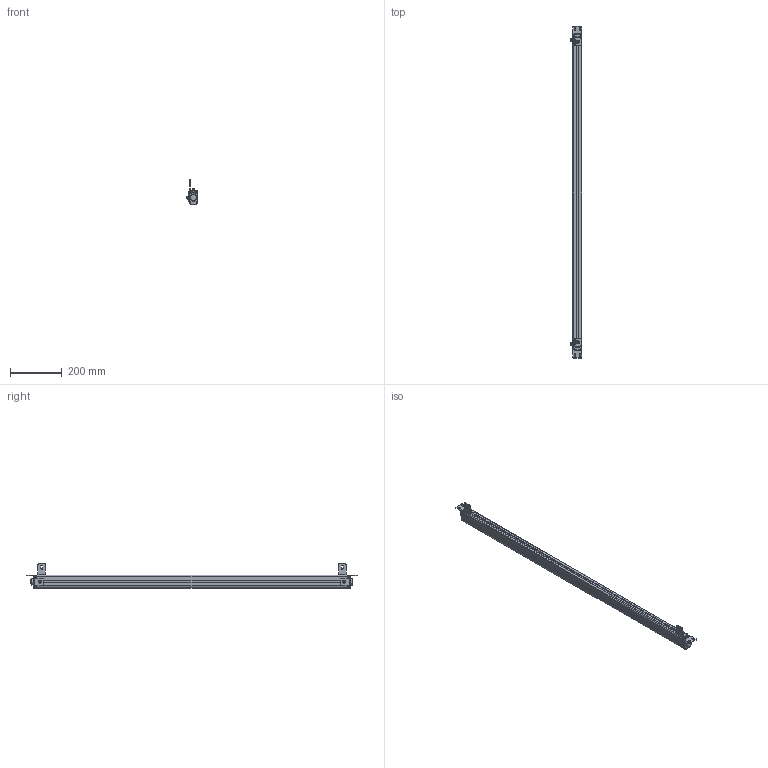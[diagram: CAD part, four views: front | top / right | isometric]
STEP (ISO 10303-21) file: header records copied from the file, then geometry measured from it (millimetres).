
FILE_DESCRIPTION((''),'2;1');
FILE_NAME('ESN--000_ASM','2021-08-11T16:28:41',('18720616900'),(''),'CREO PARAMETRIC BY PTC INC, 2019010','CREO PARAMETRIC BY PTC INC, 2019010','');
FILE_SCHEMA(('CONFIG_CONTROL_DESIGN'));
Length unit declared in the file: millimetre
Products named in the file (22): 00; 000; _0001; 4000; 4--0001; ESN_40001_ASM; L10001; M6-8--0001; M6-1--00; M6-1-00; M6-80001_ASM; L1--0001_ASM; _0002; 0005; ST-3-120001; H1--000; H1--0001_ASM; H1--0003_ASM; ESN--000_ASM
Assembly tree (34 placements, depth 4):
  ESN--000_ASM
    00
    000
    _0001
    000
    ESN_40001_ASM
      4000
      4--0001  x4
    L1--0001_ASM  x2
      L10001
      M6-80001_ASM
        M6-8--0001
        M6-1--00
        M6-1-00
        00
    _0002
    0005
    ST-3-120001  x8
    H1--0001_ASM
      H1--000
      M6-80001_ASM
        M6-8--0001
        M6-1--00
        M6-1-00
        00
    H1--0003_ASM
      H1--000
      M6-80001_ASM
        M6-8--0001
        M6-1--00
        M6-1-00
        00
Bounding box: 46.5 x 1287 x 94.95 mm (x, y, z)
Volume: 1849471.8 mm3; surface area: 381191.1 mm2
Topology: 39 solids, 39 shells, 1727 faces, 4555 edges, 2925 vertices
Faces by surface type: plane 541, cylinder 404, bspline 362, cone 291, torus 105, sphere 24
Entity records: 45714 total; most frequent: CARTESIAN_POINT 24222, ORIENTED_EDGE 4766, DIRECTION 3842, EDGE_CURVE 2383, VERTEX_POINT 1546, AXIS2_PLACEMENT_3D 1400, VECTOR 1042, LINE 1042
